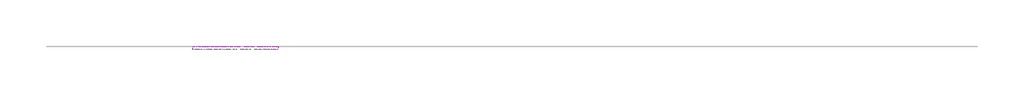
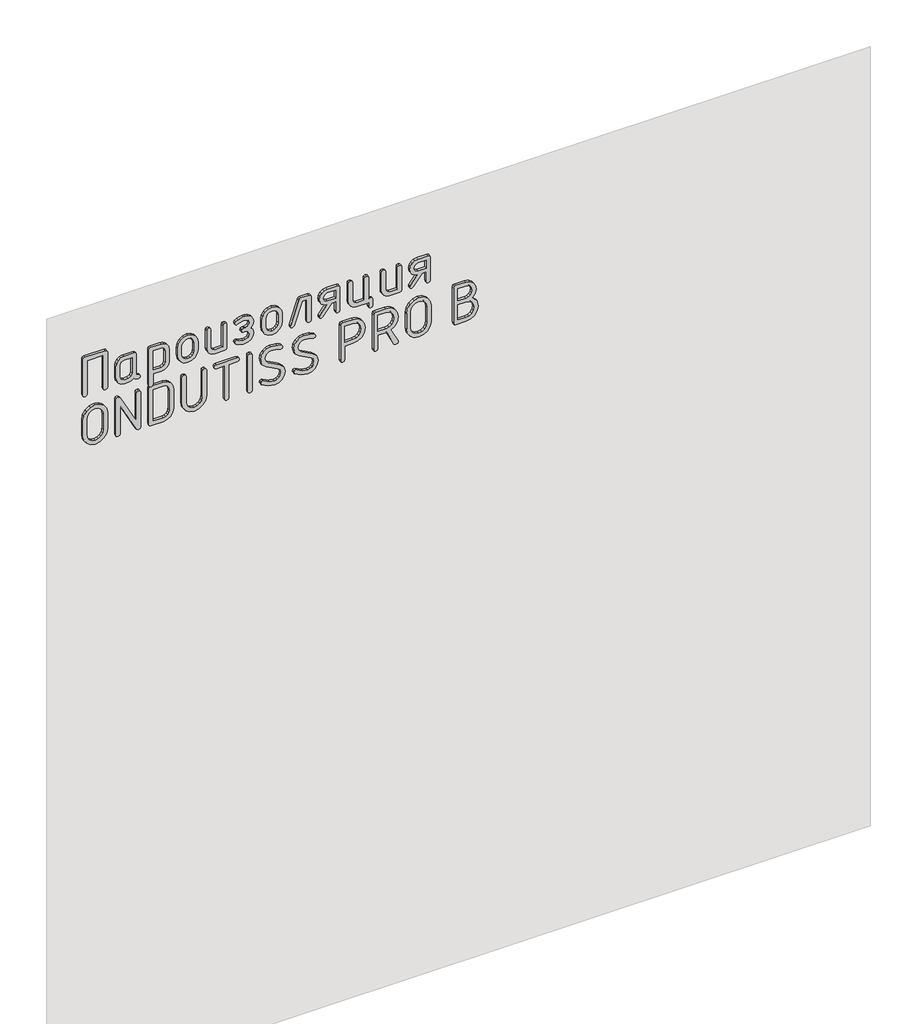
# One storey, part 23 of 42: 1 proxy.
"""IFC4 building model written with IfcOpenShell, lengths in millimetres."""

from ifc_helpers import new_model, si_unit, frame, origin, place, context, project, spatial, polyline, outline, extrude, element, save

model = new_model("IFC4")

# Units and contexts
model_context = context("Model", 3, world=origin())
ifc_project = project(units=[si_unit("LENGTHUNIT", "METRE", prefix="MILLI")], contexts=[model_context])

# Site, building, storey
site = spatial("IfcSite", under=ifc_project)
building = spatial("IfcBuilding", under=site)
storey = spatial("IfcBuildingStorey", under=building, Name="Этаж 01", Elevation=0.0)

# Proxy
placement = place(None, origin())
element("IfcBuildingElementProxy", 1, Name="150 мм GOST Common", ObjectType="150 мм GOST Common", at=placement, inside=storey, context=model_context, shape_type="SweptSolid", body=[
    extrude(outline(polyline([(2813.534126, -17003.1472358), (2811.6464128, -17008.750448), (2805.9832732, -17010.6181854), (2670.2277293, -17010.6181854), (2664.5645897, -17008.7005085), (2662.6768765, -17002.9474778), (2664.5546018, -16997.1944471), (2670.1877777, -16995.2767702), (2798.1927108, -16995.2767702), (2798.1927108, -16936.468012), (2670.1877777, -16936.468012), (2664.5546018, -16934.5503351), (2662.6768765, -16928.7973044), (2664.5645897, -16923.0442737), (2670.2277293, -16921.1265968), (2805.9832732, -16921.1265968), (2811.6464128, -16922.9943342), (2813.534126, -16928.5975464), (2813.534126, -17003.1472358)])), frame((0.0, -27838.3929597, 0.0), z_axis=(0.0, 1.0, 0.0), x_axis=(0.0, 0.0, 1.0)), (0.0, 0.0, 1.0), 10.0),
    extrude(outline(polyline([(2670.1478261, -16801.3117421), (2675.781002, -16803.1844735), (2677.6587273, -16808.8026675), (2679.5264647, -16814.4208616), (2685.1296769, -16816.2935929), (2760.0389308, -16816.2935929), (2765.642143, -16818.1513424), (2767.5098804, -16823.7245909), (2767.5098804, -16860.7996776), (2765.342506, -16872.2957511), (2758.8403827, -16881.8541719), (2749.1820829, -16888.2963678), (2737.5461788, -16890.4437664), (2692.6405781, -16890.4437664), (2681.004674, -16888.2963678), (2671.3463742, -16881.8541719), (2664.8442509, -16872.2957511), (2662.6768765, -16860.7996776), (2662.6768765, -16845.9376817), (2664.6644687, -16834.960979), (2670.6272453, -16825.8420258), (2664.6644687, -16818.2612093), (2662.6768765, -16808.7826917), (2664.5446139, -16803.1794795), (2670.1478261, -16801.3117421)]), holes=[polyline([(2752.1684652, -16831.6350081), (2692.8403361, -16831.6350081), (2682.3530405, -16835.8698779), (2678.0182917, -16846.1374397), (2678.0182917, -16860.5999196), (2682.3929921, -16870.8275298), (2692.8403361, -16875.1023512), (2737.3464208, -16875.1023512), (2747.8337163, -16870.8674814), (2752.1684652, -16860.5999196), (2752.1684652, -16831.6350081)])]), frame((0.0, -27838.3929597, 0.0), z_axis=(0.0, 1.0, 0.0), x_axis=(0.0, 0.0, 1.0)), (0.0, 0.0, 1.0), 10.0),
    extrude(outline(polyline([(2759.9590276, -16770.2693473), (2624.2034837, -16770.2693473), (2618.5403441, -16768.3516704), (2616.6526309, -16762.5986397), (2618.5703078, -16756.845609), (2624.3233385, -16754.9279321), (2662.6768765, -16754.9279321), (2662.6768765, -16725.523553), (2664.8592328, -16714.1323525), (2671.4063016, -16704.6488409), (2681.0795832, -16698.2515906), (2692.6405781, -16696.1191739), (2737.5461788, -16696.1191739), (2749.1820829, -16698.2665725), (2758.8403827, -16704.7087683), (2765.342506, -16714.2671891), (2767.5098804, -16725.7632626), (2767.5098804, -16762.8383493), (2765.6221672, -16768.4115978), (2759.9590276, -16770.2693473)]), holes=[polyline([(2752.1684652, -16754.9279321), (2752.1684652, -16725.9630206), (2747.8936437, -16715.6355315), (2737.3464208, -16711.4605891), (2692.8403361, -16711.4605891), (2682.3530405, -16715.6954589), (2678.0182917, -16725.9630206), (2678.0182917, -16754.9279321), (2752.1684652, -16754.9279321)])]), frame((0.0, -27838.3929597, 0.0), z_axis=(0.0, 1.0, 0.0), x_axis=(0.0, 0.0, 1.0)), (0.0, 0.0, 1.0), 10.0),
    extrude(outline(polyline([(2700.1115277, -16665.4363435), (2685.718963, -16662.7246285), (2673.6236155, -16654.5894835), (2665.4135613, -16642.6089968), (2662.6768765, -16628.3612568), (2665.4135613, -16614.1135167), (2673.6236155, -16602.13303), (2685.718963, -16593.997885), (2700.1115277, -16591.28617), (2730.0752292, -16591.28617), (2744.6176124, -16593.9679213), (2756.6829962, -16602.0131752), (2764.8031593, -16613.9636982), (2767.5098804, -16628.3612568), (2764.7731956, -16642.6089968), (2756.5631414, -16654.5894835), (2744.4677939, -16662.7246285), (2730.0752292, -16665.4363435), (2700.1115277, -16665.4363435)]), holes=[polyline([(2700.5509953, -16606.6275852), (2691.8914855, -16608.2206554), (2684.6103061, -16612.9998658), (2679.6662953, -16620.0263538), (2678.0182917, -16628.3612568), (2679.6563074, -16636.771069), (2684.5703545, -16643.7825752), (2691.841546, -16648.51684), (2700.5509953, -16650.0949283), (2730.5546484, -16650.0949283), (2739.1841945, -16648.5018582), (2746.4553861, -16643.7226478), (2751.3993968, -16636.6961597), (2753.0474004, -16628.3612568), (2751.3993968, -16620.0263538), (2746.4553861, -16612.9998658), (2739.1841945, -16608.2206554), (2730.5546484, -16606.6275852), (2700.5509953, -16606.6275852)])]), frame((0.0, -27838.3929597, 0.0), z_axis=(0.0, 1.0, 0.0), x_axis=(0.0, 0.0, 1.0)), (0.0, 0.0, 1.0), 10.0),
    extrude(outline(polyline([(2760.0389308, -16486.4531662), (2765.642143, -16488.3708431), (2767.5098804, -16494.1238738), (2765.642143, -16499.8769045), (2760.0389308, -16501.7945814), (2678.0182917, -16501.7945814), (2678.0182917, -16530.7594929), (2682.4329437, -16540.987103), (2692.9202393, -16545.2619244), (2760.0389308, -16545.2619244), (2765.642143, -16547.1796013), (2767.5098804, -16552.932632), (2765.642143, -16558.6856627), (2760.0389308, -16560.6033396), (2692.6405781, -16560.6033396), (2681.004674, -16558.455941), (2671.3463742, -16552.0137452), (2664.8442509, -16542.4553244), (2662.6768765, -16530.9592509), (2662.6768765, -16493.8841642), (2664.5446139, -16488.3109157), (2670.1478261, -16486.4531662), (2760.0389308, -16486.4531662)])), frame((0.0, -27838.3929597, 0.0), z_axis=(0.0, 1.0, 0.0), x_axis=(0.0, 0.0, 1.0)), (0.0, 0.0, 1.0), 10.0),
    extrude(outline(polyline([(2693.3996585, -16404.6322851), (2682.5128469, -16409.0069856), (2678.0182917, -16419.6540875), (2678.0182917, -16427.1649887), (2681.8336697, -16442.2067669), (2685.6490477, -16451.335708), (2682.9323388, -16455.450723), (2677.6587273, -16457.1686419), (2671.7059386, -16454.1223322), (2666.6320851, -16444.9834032), (2662.6768765, -16427.1649887), (2662.6768765, -16419.6540875), (2664.8991844, -16407.9682439), (2671.566108, -16398.1601256), (2681.4591234, -16391.5081838), (2693.3597069, -16389.2908699), (2707.1829612, -16391.9376636), (2716.3718297, -16399.8780445), (2725.0113637, -16391.9376636), (2738.3052592, -16389.2908699), (2749.6215505, -16391.5081838), (2759.0401407, -16398.1601256), (2765.3924455, -16407.9682439), (2767.5098804, -16419.6540875), (2767.5098804, -16427.1649887), (2763.434817, -16444.8635484), (2758.2710724, -16454.0923685), (2752.5280296, -16457.1686419), (2747.2743939, -16455.450723), (2744.5377092, -16451.4555628), (2748.3530872, -16442.5463555), (2752.1684652, -16427.1649887), (2752.1684652, -16419.6540875), (2748.1133776, -16408.967034), (2738.1055012, -16404.6322851), (2728.0976249, -16408.6673969), (2724.0425373, -16420.3332647), (2724.0425373, -16422.7303609), (2724.0425373, -16425.0076022), (2721.7852718, -16432.4186244), (2716.3318781, -16434.6359383), (2710.8984602, -16432.4785518), (2708.7011221, -16427.1649887), (2708.7011221, -16417.496701), (2704.7459135, -16408.6274453), (2693.3996585, -16404.6322851)])), frame((0.0, -27838.3929597, 0.0), z_axis=(0.0, 1.0, 0.0), x_axis=(0.0, 0.0, 1.0)), (0.0, 0.0, 1.0), 10.0),
    extrude(outline(polyline([(2700.1115277, -16358.6080395), (2685.718963, -16355.8963245), (2673.6236155, -16347.7611796), (2665.4135613, -16335.7806929), (2662.6768765, -16321.5329528), (2665.4135613, -16307.2852127), (2673.6236155, -16295.304726), (2685.718963, -16287.1695811), (2700.1115277, -16284.4578661), (2730.0752292, -16284.4578661), (2744.6176124, -16287.1396174), (2756.6829962, -16295.1848712), (2764.8031593, -16307.1353942), (2767.5098804, -16321.5329528), (2764.7731956, -16335.7806929), (2756.5631414, -16347.7611796), (2744.4677939, -16355.8963245), (2730.0752292, -16358.6080395), (2700.1115277, -16358.6080395)]), holes=[polyline([(2700.5509953, -16299.7992813), (2691.8914855, -16301.3923514), (2684.6103061, -16306.1715618), (2679.6662953, -16313.1980498), (2678.0182917, -16321.5329528), (2679.6563074, -16329.942765), (2684.5703545, -16336.9542712), (2691.841546, -16341.6885361), (2700.5509953, -16343.2666243), (2730.5546484, -16343.2666243), (2739.1841945, -16341.6735542), (2746.4553861, -16336.8943438), (2751.3993968, -16329.8678558), (2753.0474004, -16321.5329528), (2751.3993968, -16313.1980498), (2746.4553861, -16306.1715618), (2739.1841945, -16301.3923514), (2730.5546484, -16299.7992813), (2700.5509953, -16299.7992813)])]), frame((0.0, -27838.3929597, 0.0), z_axis=(0.0, 1.0, 0.0), x_axis=(0.0, 0.0, 1.0)), (0.0, 0.0, 1.0), 10.0),
    extrude(outline(polyline([(2767.5098804, -16217.4590294), (2765.9817316, -16222.0534636), (2761.3972852, -16224.9699306), (2672.5449222, -16254.6140193), (2670.2676809, -16254.9735837), (2664.5745776, -16253.0958584), (2662.6768765, -16247.4626826), (2667.75073, -16240.391249), (2752.1684652, -16212.1055147), (2752.1684652, -16194.9662774), (2670.1478261, -16194.9662774), (2664.5446139, -16193.0486005), (2662.6768765, -16187.2955698), (2664.5446139, -16181.5425391), (2670.1478261, -16179.6248622), (2760.0389308, -16179.6248622), (2765.642143, -16181.5425391), (2767.5098804, -16187.2955698), (2767.5098804, -16217.4590294)])), frame((0.0, -27838.3929597, 0.0), z_axis=(0.0, 1.0, 0.0), x_axis=(0.0, 0.0, 1.0)), (0.0, 0.0, 1.0), 10.0),
    extrude(outline(polyline([(2707.8221869, -16123.4129581), (2674.7023087, -16148.6623706), (2670.1478261, -16150.1405799), (2664.5446139, -16148.2628546), (2662.6768765, -16142.6296787), (2665.7531499, -16136.5969868), (2707.6623805, -16105.354834), (2707.6623805, -16090.1332736), (2670.1877777, -16090.1332736), (2664.5546018, -16088.2155967), (2662.6768765, -16082.462566), (2664.5446139, -16076.7095353), (2670.1478261, -16074.7918584), (2760.0389308, -16074.7918584), (2765.642143, -16076.7095353), (2767.5098804, -16082.462566), (2767.5098804, -16120.1369267), (2765.342506, -16131.752855), (2758.8403827, -16141.4311306), (2749.1820829, -16147.9632176), (2737.5461788, -16150.1405799), (2726.784216, -16148.2478727), (2717.5903536, -16142.5697513), (2710.9434058, -16133.9951387), (2707.8221869, -16123.4129581)]), holes=[polyline([(2737.1466628, -16135.1187775), (2747.7937647, -16130.7440771), (2752.1684652, -16120.1369267), (2752.1684652, -16090.1332736), (2722.164812, -16090.1332736), (2722.164812, -16120.1369267), (2726.5994398, -16130.6841497), (2737.1466628, -16135.1187775)])]), frame((0.0, -27838.3929597, 0.0), z_axis=(0.0, 1.0, 0.0), x_axis=(0.0, 0.0, 1.0)), (0.0, 0.0, 1.0), 10.0),
    extrude(outline(polyline([(2678.0182917, -15962.2881469), (2678.0182917, -15969.9588545), (2760.0389308, -15969.9588545), (2765.642143, -15971.8765314), (2767.5098804, -15977.6295621), (2765.642143, -15983.3825928), (2760.0389308, -15985.3002697), (2678.0182917, -15985.3002697), (2678.0182917, -16014.2651812), (2682.4329437, -16024.4927914), (2692.9202393, -16028.7676128), (2760.0389308, -16028.7676128), (2765.642143, -16030.6852897), (2767.5098804, -16036.4383204), (2765.642143, -16042.1913511), (2760.0389308, -16044.109028), (2692.6405781, -16044.109028), (2681.0795832, -16041.9616294), (2671.4063016, -16035.5194335), (2664.8592328, -16025.9610127), (2662.6768765, -16014.4649392), (2662.6768765, -15969.9588545), (2647.3354613, -15969.9588545), (2641.5824306, -15968.0411776), (2639.6647537, -15962.2881469), (2641.5824306, -15956.5351162), (2647.3354613, -15954.6174393), (2670.3475841, -15954.6174393), (2676.1006148, -15956.5351162), (2678.0182917, -15962.2881469)])), frame((0.0, -27838.3929597, 0.0), z_axis=(0.0, 1.0, 0.0), x_axis=(0.0, 0.0, 1.0)), (0.0, 0.0, 1.0), 10.0),
    extrude(outline(polyline([(2760.0389308, -15849.7844355), (2765.642143, -15851.7021124), (2767.5098804, -15857.4551431), (2765.642143, -15863.2081738), (2760.0389308, -15865.1258507), (2678.0182917, -15865.1258507), (2678.0182917, -15894.0907622), (2682.4329437, -15904.3183723), (2692.9202393, -15908.5931937), (2760.0389308, -15908.5931937), (2765.642143, -15910.5108706), (2767.5098804, -15916.2639013), (2765.642143, -15922.016932), (2760.0389308, -15923.9346089), (2692.6405781, -15923.9346089), (2681.004674, -15921.7872103), (2671.3463742, -15915.3450145), (2664.8442509, -15905.7865937), (2662.6768765, -15894.2905202), (2662.6768765, -15857.2154335), (2664.5446139, -15851.642185), (2670.1478261, -15849.7844355), (2760.0389308, -15849.7844355)])), frame((0.0, -27838.3929597, 0.0), z_axis=(0.0, 1.0, 0.0), x_axis=(0.0, 0.0, 1.0)), (0.0, 0.0, 1.0), 10.0),
    extrude(outline(polyline([(2707.8221869, -15793.5725314), (2674.7023087, -15818.8219439), (2670.1478261, -15820.3001532), (2664.5446139, -15818.4224279), (2662.6768765, -15812.789252), (2665.7531499, -15806.75656), (2707.6623805, -15775.5144072), (2707.6623805, -15760.2928468), (2670.1877777, -15760.2928468), (2664.5546018, -15758.3751699), (2662.6768765, -15752.6221392), (2664.5446139, -15746.8691085), (2670.1478261, -15744.9514316), (2760.0389308, -15744.9514316), (2765.642143, -15746.8691085), (2767.5098804, -15752.6221392), (2767.5098804, -15790.2965), (2765.342506, -15801.9124283), (2758.8403827, -15811.5907039), (2749.1820829, -15818.1227908), (2737.5461788, -15820.3001532), (2726.784216, -15818.407446), (2717.5903536, -15812.7293246), (2710.9434058, -15804.154712), (2707.8221869, -15793.5725314)]), holes=[polyline([(2737.1466628, -15805.2783508), (2747.7937647, -15800.9036503), (2752.1684652, -15790.2965), (2752.1684652, -15760.2928468), (2722.164812, -15760.2928468), (2722.164812, -15790.2965), (2726.5994398, -15800.8437229), (2737.1466628, -15805.2783508)])]), frame((0.0, -27838.3929597, 0.0), z_axis=(0.0, 1.0, 0.0), x_axis=(0.0, 0.0, 1.0)), (0.0, 0.0, 1.0), 10.0),
    extrude(outline(polyline([(2511.9177961, -16921.1265968), (2572.2447152, -16921.1265968), (2589.6885835, -16924.3876463), (2604.3058759, -16934.1707949), (2614.2088792, -16948.618293), (2617.5098804, -16965.8723911), (2614.1938974, -16983.05158), (2604.2459485, -16997.5140599), (2589.6136742, -17007.3421541), (2572.2447152, -17010.6181854), (2511.9177961, -17010.6181854), (2494.5488371, -17007.3421541), (2479.9165628, -16997.5140599), (2469.9686139, -16983.05158), (2466.6526309, -16965.8723911), (2469.9686139, -16948.6932022), (2479.9165628, -16934.2307223), (2494.5488371, -16924.4026281), (2511.9177961, -16921.1265968)]), holes=[polyline([(2512.0376509, -16936.468012), (2500.3917589, -16938.6004287), (2490.7034954, -16944.997679), (2484.1714084, -16954.4811906), (2481.9940461, -16965.8723911), (2484.1714084, -16977.2635916), (2490.7034954, -16986.7471032), (2500.3917589, -16993.1443535), (2512.0376509, -16995.2767702), (2572.1248604, -16995.2767702), (2583.7707524, -16993.1443535), (2593.4590159, -16986.7471032), (2599.9911029, -16977.2635916), (2602.1684652, -16965.8723911), (2599.9911029, -16954.4811906), (2593.4590159, -16944.997679), (2583.7707524, -16938.6004287), (2572.1248604, -16936.468012), (2512.0376509, -16936.468012)])]), frame((0.0, -27838.3929597, 0.0), z_axis=(0.0, 1.0, 0.0), x_axis=(0.0, 0.0, 1.0)), (0.0, 0.0, 1.0), 10.0),
    extrude(outline(polyline([(2503.3282016, -16816.2935929), (2613.0353009, -16875.1023512), (2617.5098804, -16882.453446), (2615.6221672, -16888.4461863), (2609.9590276, -16890.4437664), (2474.2034837, -16890.4437664), (2468.5403441, -16888.5260895), (2466.6526309, -16882.7730588), (2468.5403441, -16877.0200281), (2474.2034837, -16875.1023512), (2580.9541645, -16875.1023512), (2470.4080815, -16816.2935929), (2466.6526309, -16809.1023046), (2468.5403441, -16802.9897094), (2474.2034837, -16800.9521777), (2609.9590276, -16800.9521777), (2615.6221672, -16802.8698546), (2617.5098804, -16808.6228853), (2615.6221672, -16814.375916), (2609.9590276, -16816.2935929), (2503.3282016, -16816.2935929)])), frame((0.0, -27838.3929597, 0.0), z_axis=(0.0, 1.0, 0.0), x_axis=(0.0, 0.0, 1.0)), (0.0, 0.0, 1.0), 10.0),
    extrude(outline(polyline([(2609.9590276, -16770.2693473), (2474.2034837, -16770.2693473), (2468.5403441, -16768.4016099), (2466.6526309, -16762.7983977), (2466.6526309, -16718.0526034), (2469.4092915, -16703.7299541), (2477.6792731, -16691.684546), (2489.8645117, -16683.5044555), (2504.3669433, -16680.7777587), (2579.795568, -16680.7777587), (2594.4478181, -16683.4744918), (2606.603093, -16691.5646912), (2614.7831835, -16703.5801356), (2617.5098804, -16718.0526034), (2617.5098804, -16762.7983977), (2615.6221672, -16768.4016099), (2609.9590276, -16770.2693473)]), holes=[polyline([(2602.1684652, -16754.9279321), (2602.1684652, -16718.1724582), (2600.5204616, -16709.6977246), (2595.5764508, -16702.5713576), (2588.2952713, -16697.7322198), (2579.6357616, -16696.1191739), (2504.5267497, -16696.1191739), (2495.8672399, -16697.7322198), (2488.5860605, -16702.5713576), (2483.6420497, -16709.6977246), (2481.9940461, -16718.1724582), (2481.9940461, -16754.9279321), (2602.1684652, -16754.9279321)])]), frame((0.0, -27838.3929597, 0.0), z_axis=(0.0, 1.0, 0.0), x_axis=(0.0, 0.0, 1.0)), (0.0, 0.0, 1.0), 10.0),
    extrude(outline(polyline([(2609.9590276, -16560.6033396), (2615.6221672, -16562.5210165), (2617.5098804, -16568.2740472), (2615.6321551, -16574.0270779), (2609.9989792, -16575.9447548), (2512.1175541, -16575.9447548), (2500.4367044, -16578.0771716), (2490.7234712, -16584.4744219), (2484.1764024, -16593.9579334), (2481.9940461, -16605.349134), (2484.1764024, -16616.7403345), (2490.7234712, -16626.223846), (2500.4367044, -16632.6210963), (2512.1175541, -16634.7535131), (2609.9989792, -16634.7535131), (2615.6321551, -16636.67119), (2617.5098804, -16642.4242207), (2615.6221672, -16648.1772514), (2609.9590276, -16650.0949283), (2511.9177961, -16650.0949283), (2494.5488371, -16646.8188969), (2479.9165628, -16636.9908028), (2469.9686139, -16622.5283229), (2466.6526309, -16605.349134), (2469.9686139, -16588.1699451), (2479.9165628, -16573.7074651), (2494.5488371, -16563.879371), (2511.9177961, -16560.6033396), (2609.9590276, -16560.6033396)])), frame((0.0, -27838.3929597, 0.0), z_axis=(0.0, 1.0, 0.0), x_axis=(0.0, 0.0, 1.0)), (0.0, 0.0, 1.0), 10.0),
    extrude(outline(polyline([(2609.8391728, -16531.6384281), (2604.0861421, -16529.7607028), (2602.1684652, -16524.1275269), (2602.1684652, -16494.1238738), (2474.1635321, -16494.1238738), (2468.5303562, -16492.2061969), (2466.6526309, -16486.4531662), (2468.5303562, -16480.7001355), (2474.1635321, -16478.7824586), (2602.1684652, -16478.7824586), (2602.1684652, -16448.7788054), (2604.0861421, -16443.1755932), (2609.8391728, -16441.3078558), (2615.5922035, -16443.1755932), (2617.5098804, -16448.7788054), (2617.5098804, -16524.1275269), (2615.5922035, -16529.7607028), (2609.8391728, -16531.6384281)])), frame((0.0, -27838.3929597, 0.0), z_axis=(0.0, 1.0, 0.0), x_axis=(0.0, 0.0, 1.0)), (0.0, 0.0, 1.0), 10.0),
    extrude(outline(polyline([(2466.6526309, -16402.0753826), (2468.5403441, -16396.3223519), (2474.2034837, -16394.404675), (2609.9590276, -16394.404675), (2615.6221672, -16396.3223519), (2617.5098804, -16402.0753826), (2615.6221672, -16407.8284133), (2609.9590276, -16409.7460902), (2474.2034837, -16409.7460902), (2468.5403441, -16407.8284133), (2466.6526309, -16402.0753826)])), frame((0.0, -27838.3929597, 0.0), z_axis=(0.0, 1.0, 0.0), x_axis=(0.0, 0.0, 1.0)), (0.0, 0.0, 1.0), 10.0),
    extrude(outline(polyline([(2504.2870401, -16274.2302559), (2524.1429863, -16279.3140973), (2537.8463858, -16294.5656214), (2559.5001542, -16336.2351424), (2567.6602689, -16345.3441076), (2579.59581, -16348.3804294), (2588.2603137, -16346.7673835), (2595.556475, -16341.9282457), (2600.5154676, -16334.8018786), (2602.1684652, -16326.3271451), (2600.4904979, -16309.567448), (2595.456596, -16292.6878961), (2594.657564, -16289.5716711), (2596.8748779, -16284.2780839), (2602.1684652, -16282.06077), (2609.1599955, -16286.4953978), (2615.4224092, -16303.4648408), (2617.5098804, -16326.6467579), (2614.7432319, -16340.8195887), (2606.4432866, -16352.8150572), (2594.2680359, -16360.9951478), (2579.8754712, -16363.7218446), (2560.0494887, -16358.6979306), (2546.4359803, -16343.6261888), (2524.7822119, -16301.9167162), (2516.5322061, -16292.6579324), (2504.5667013, -16289.5716711), (2495.9021976, -16291.1996989), (2488.6060363, -16296.0837823), (2483.6470437, -16303.2750707), (2481.9940461, -16311.8247135), (2485.1901743, -16331.6007565), (2495.657494, -16352.0559768), (2497.0158485, -16356.2908466), (2494.7985346, -16361.5245065), (2489.5049473, -16363.7218446), (2483.3923522, -16360.4458132), (2470.8375612, -16337.5235815), (2466.6526309, -16311.5051007), (2469.4192794, -16297.2573606), (2477.7192247, -16285.1969707), (2489.8944754, -16276.9719346), (2504.2870401, -16274.2302559)])), frame((0.0, -27838.3929597, 0.0), z_axis=(0.0, 1.0, 0.0), x_axis=(0.0, 0.0, 1.0)), (0.0, 0.0, 1.0), 10.0),
    extrude(outline(polyline([(2504.2870401, -16154.0558369), (2524.1429863, -16159.1396783), (2537.8463858, -16174.3912024), (2559.5001542, -16216.0607233), (2567.6602689, -16225.1696886), (2579.59581, -16228.2060104), (2588.2603137, -16226.5929644), (2595.556475, -16221.7538266), (2600.5154676, -16214.6274596), (2602.1684652, -16206.152726), (2600.4904979, -16189.3930289), (2595.456596, -16172.5134771), (2594.657564, -16169.3972521), (2596.8748779, -16164.1036648), (2602.1684652, -16161.8863509), (2609.1599955, -16166.3209787), (2615.4224092, -16183.2904217), (2617.5098804, -16206.4723388), (2614.7432319, -16220.6451697), (2606.4432866, -16232.6406382), (2594.2680359, -16240.8207287), (2579.8754712, -16243.5474256), (2560.0494887, -16238.5235116), (2546.4359803, -16223.4517697), (2524.7822119, -16181.7422971), (2516.5322061, -16172.4835134), (2504.5667013, -16169.3972521), (2495.9021976, -16171.0252799), (2488.6060363, -16175.9093632), (2483.6470437, -16183.1006516), (2481.9940461, -16191.6502945), (2485.1901743, -16211.4263375), (2495.657494, -16231.8815577), (2497.0158485, -16236.1164276), (2494.7985346, -16241.3500874), (2489.5049473, -16243.5474256), (2483.3923522, -16240.2713942), (2470.8375612, -16217.3491625), (2466.6526309, -16191.3306816), (2469.4192794, -16177.0829415), (2477.7192247, -16165.0225517), (2489.8944754, -16156.7975156), (2504.2870401, -16154.0558369)])), frame((0.0, -27838.3929597, 0.0), z_axis=(0.0, 1.0, 0.0), x_axis=(0.0, 0.0, 1.0)), (0.0, 0.0, 1.0), 10.0),
    extrude(outline(polyline([(2617.5098804, -16064.7640063), (2615.6221672, -16070.3672185), (2609.9590276, -16072.2349558), (2474.2034837, -16072.2349558), (2468.5403441, -16070.3172789), (2466.6526309, -16064.5642482), (2468.4904046, -16058.8112175), (2474.0037257, -16056.8935406), (2525.4613892, -16056.8935406), (2525.4613892, -16027.2494519), (2528.6575173, -16009.3261644), (2538.2459018, -15995.108388), (2552.9480914, -15985.8346224), (2571.4856348, -15982.7433672), (2589.2241461, -15986.0044167), (2604.0861421, -15995.7875653), (2614.1539458, -16010.2350634), (2617.5098804, -16027.4891615), (2617.5098804, -16064.7640063)]), holes=[polyline([(2602.1684652, -16056.8935406), (2602.1684652, -16027.4891615), (2599.9461573, -16016.097961), (2593.2792337, -16006.6144494), (2583.3862182, -16000.2171992), (2571.4856348, -15998.0847824), (2559.5850513, -16000.2171992), (2549.6920358, -16006.6144494), (2543.0251122, -16016.097961), (2540.8028044, -16027.4891615), (2540.8028044, -16056.8935406), (2602.1684652, -16056.8935406)])]), frame((0.0, -27838.3929597, 0.0), z_axis=(0.0, 1.0, 0.0), x_axis=(0.0, 0.0, 1.0)), (0.0, 0.0, 1.0), 10.0),
    extrude(outline(polyline([(2530.1756782, -15888.7372475), (2536.8800565, -15877.2886165), (2546.1263554, -15869.111023), (2557.9145749, -15864.2044669), (2572.2447152, -15862.5689481), (2589.6885835, -15865.8299977), (2604.3058759, -15875.6131462), (2614.2088792, -15890.0606443), (2617.5098804, -15907.3147425), (2617.5098804, -15944.5895872), (2615.6221672, -15950.1927994), (2609.9590276, -15952.0605368), (2474.2034837, -15952.0605368), (2468.5403441, -15950.1428599), (2466.6526309, -15944.3898292), (2468.4904046, -15938.6367985), (2474.0037257, -15936.7191216), (2525.4613892, -15936.7191216), (2525.4613892, -15907.6343553), (2525.581244, -15904.9975496), (2470.7676459, -15877.9103633), (2466.6526309, -15870.5992202), (2468.9298722, -15865.0059959), (2474.2034837, -15862.5689481), (2477.6393215, -15862.5689481), (2530.1756782, -15888.7372475)]), holes=[polyline([(2602.1684652, -15936.7191216), (2602.1684652, -15907.3147425), (2599.9461573, -15895.9235419), (2593.2792337, -15886.4400304), (2583.3862182, -15880.0427801), (2571.4856348, -15877.9103633), (2559.5850513, -15880.0427801), (2549.6920358, -15886.4400304), (2543.0251122, -15895.9235419), (2540.8028044, -15907.3147425), (2540.8028044, -15936.7191216), (2602.1684652, -15936.7191216)])]), frame((0.0, -27838.3929597, 0.0), z_axis=(0.0, 1.0, 0.0), x_axis=(0.0, 0.0, 1.0)), (0.0, 0.0, 1.0), 10.0),
    extrude(outline(polyline([(2511.9177961, -15742.3945291), (2572.2447152, -15742.3945291), (2589.6885835, -15745.6555786), (2604.3058759, -15755.4387272), (2614.2088792, -15769.8862253), (2617.5098804, -15787.1403234), (2614.1938974, -15804.3195123), (2604.2459485, -15818.7819923), (2589.6136742, -15828.6100864), (2572.2447152, -15831.8861178), (2511.9177961, -15831.8861178), (2494.5488371, -15828.6100864), (2479.9165628, -15818.7819923), (2469.9686139, -15804.3195123), (2466.6526309, -15787.1403234), (2469.9686139, -15769.9611345), (2479.9165628, -15755.4986546), (2494.5488371, -15745.6705605), (2511.9177961, -15742.3945291)]), holes=[polyline([(2512.0376509, -15757.7359443), (2500.3917589, -15759.8683611), (2490.7034954, -15766.2656113), (2484.1714084, -15775.7491229), (2481.9940461, -15787.1403234), (2484.1714084, -15798.531524), (2490.7034954, -15808.0150355), (2500.3917589, -15814.4122858), (2512.0376509, -15816.5447026), (2572.1248604, -15816.5447026), (2583.7707524, -15814.4122858), (2593.4590159, -15808.0150355), (2599.9911029, -15798.531524), (2602.1684652, -15787.1403234), (2599.9911029, -15775.7491229), (2593.4590159, -15766.2656113), (2583.7707524, -15759.8683611), (2572.1248604, -15757.7359443), (2512.0376509, -15757.7359443)])]), frame((0.0, -27838.3929597, 0.0), z_axis=(0.0, 1.0, 0.0), x_axis=(0.0, 0.0, 1.0)), (0.0, 0.0, 1.0), 10.0),
    extrude(outline(polyline([(2549.272544, -15592.9355857), (2562.4965243, -15582.2984717), (2579.1563424, -15578.752767), (2594.0383141, -15581.4445062), (2606.403335, -15589.5197238), (2614.733244, -15601.5101983), (2617.5098804, -15615.9477085), (2617.5098804, -15653.1426501), (2615.6221672, -15658.7158986), (2609.9590276, -15660.573648), (2474.2034837, -15660.573648), (2468.5403441, -15658.7059107), (2466.6526309, -15653.1026985), (2466.6526309, -15615.8278537), (2469.9236683, -15598.6486648), (2479.7367806, -15584.1861849), (2494.1643029, -15574.3580908), (2511.2785704, -15571.0820594), (2533.4616975, -15576.545441), (2549.272544, -15592.9355857)]), holes=[polyline([(2602.1684652, -15645.2322328), (2602.1684652, -15616.0276117), (2600.4855039, -15607.5928297), (2595.4366202, -15600.5064143), (2588.0006283, -15595.6972402), (2579.1563424, -15594.0941822), (2570.3120565, -15595.6972402), (2562.8760645, -15600.5064143), (2557.8271808, -15607.5928297), (2556.1442196, -15616.0276117), (2556.1442196, -15645.2322328), (2602.1684652, -15645.2322328)]), polyline([(2540.8028044, -15645.2322328), (2540.8028044, -15615.8278537), (2538.6703876, -15604.4366532), (2532.2731373, -15594.9531416), (2522.7896258, -15588.5558914), (2511.3984253, -15586.4234746), (2500.0072247, -15588.5558914), (2490.5237132, -15594.9531416), (2484.1264629, -15604.4366532), (2481.9940461, -15615.8278537), (2481.9940461, -15645.2322328), (2540.8028044, -15645.2322328)])]), frame((0.0, -27838.3929597, 0.0), z_axis=(0.0, 1.0, 0.0), x_axis=(0.0, 0.0, 1.0)), (0.0, 0.0, 1.0), 10.0),
])

save(model, "model.ifc")
